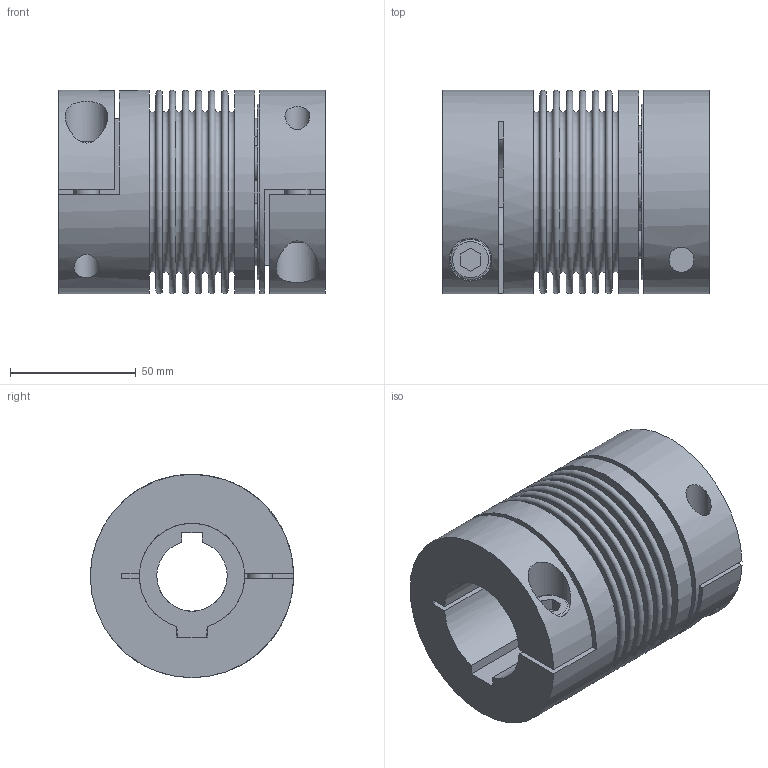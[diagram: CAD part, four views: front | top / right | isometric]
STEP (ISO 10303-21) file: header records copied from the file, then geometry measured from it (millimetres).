
FILE_DESCRIPTION(/* description */ ('STEP AP214'),/* implementation_level */ '2;1');
FILE_NAME(/* name */ 'C:\Diequa Files\DieQua Coupling\BCB\STP\BCB.80.106.#.#.stp',/* time_stamp */ '2018-11-26T11:49:31-06:00',/* author */ ('DiequaCAD'),/* organization */ (''),/* preprocessor_version */ 'ST-DEVELOPER v17.2',/* originating_system */ 'Autodesk Inventor 2019',/* authorisation */ ' ');
FILE_SCHEMA (('AUTOMOTIVE_DESIGN { 1 0 10303 214 3 1 1 }'));
Length unit declared in the file: millimetre
Products named in the file (3): BK5_80_106_42_PFN_28_PFN_84; 2018_11_09__18-08-53-357; 2018_11_09__18-08-53-357_1
Assembly tree (2 placements, depth 2):
  BK5_80_106_42_PFN_28_PFN_84
    2018_11_09__18-08-53-357
    2018_11_09__18-08-53-357_1
Bounding box: 106 x 81 x 81 mm (x, y, z)
Volume: 332188.1 mm3; surface area: 101544.9 mm2
Topology: 2 solids, 2 shells, 125 faces, 317 edges, 221 vertices
Faces by surface type: plane 65, cone 24, cylinder 21, torus 15
Full cylindrical faces by diameter (mm): 10 x4, 16 x2, 17 x2, 59 x1, 68 x1, 70 x1, 81 x3
Entity records: 4190 total; most frequent: CARTESIAN_POINT 891, DIRECTION 713, ORIENTED_EDGE 634, EDGE_CURVE 317, AXIS2_PLACEMENT_3D 297, VERTEX_POINT 221, CIRCLE 167, EDGE_LOOP 158
